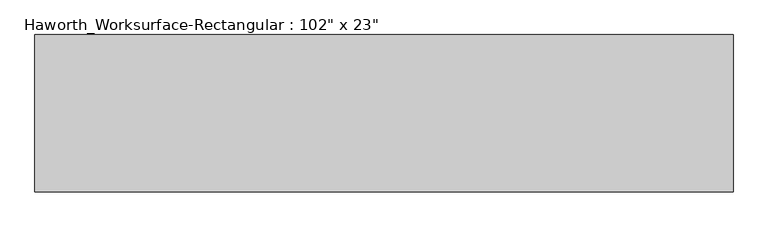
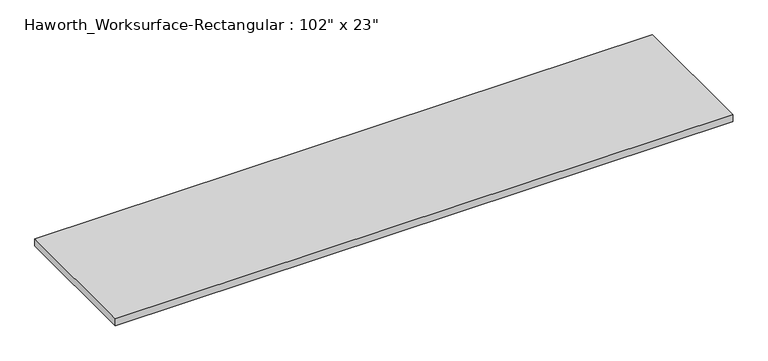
"""IFC4 building model written with IfcOpenShell, lengths in millimetres: furniture geometry."""

from ifc_helpers import new_model, si_unit, frame, origin, place, context, project, spatial, polyline, outline, extrude, source, transform, mapped, element, save


def furniture_246bb295(model_context):
    return source(origin(), model_context, "Body", "SweptSolid", [
        extrude(outline(polyline([(1295.4, -292.1), (-1295.4, -292.1), (-1295.4, 292.1), (1295.4, 292.1), (1295.4, -292.1)])), frame((0.0, 0.0, 706.4375), z_axis=(0.0, 0.0, 1.0), x_axis=(1.0, 0.0, 0.0)), (0.0, 0.0, 1.0), 30.1625),
    ])


if __name__ == "__main__":
    model = new_model("IFC4")
    model_context = context("Model", 3, world=origin())
    ifc_project = project(units=[si_unit("LENGTHUNIT", "METRE", prefix="MILLI")], contexts=[model_context])
    site = spatial("IfcSite", under=ifc_project)
    building = spatial("IfcBuilding", under=site)
    placement = place(None, origin())
    furniture_shape = furniture_246bb295(model_context)
    element("IfcFurniture", 1, ObjectType="Haworth_Worksurface-Rectangular : 102\" x 23\"", at=placement, inside=building, context=model_context, shape_type="MappedRepresentation", body=[
        mapped(furniture_shape, transform((0.0, 0.0, 0.0), x_axis=(1.0, 0.0, 0.0), y_axis=(0.0, 1.0, 0.0), z_axis=(0.0, 0.0, 1.0))),
    ])
    save(model, "model.ifc")
